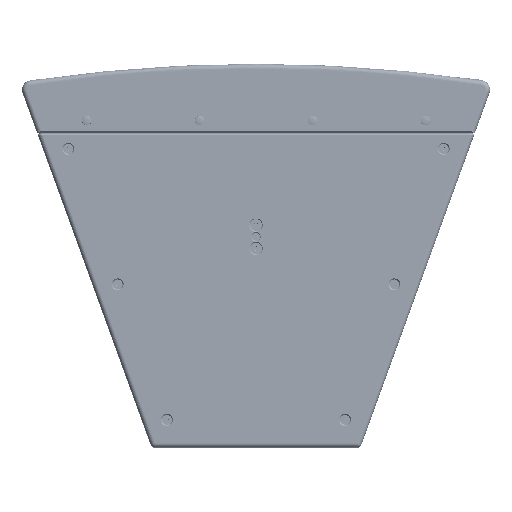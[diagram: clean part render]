
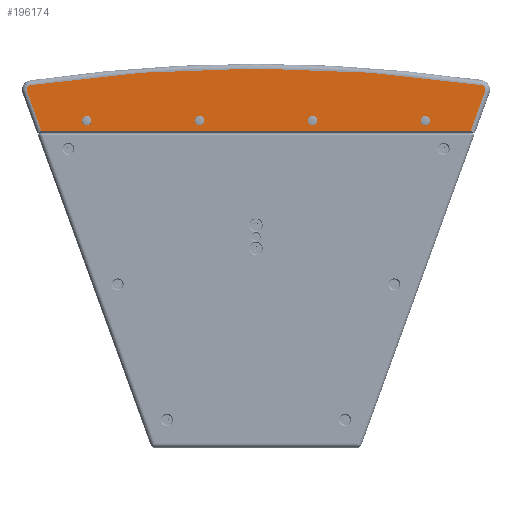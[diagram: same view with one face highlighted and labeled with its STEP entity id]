
A CAD part, left-side view. The second image highlights one B-rep face of the part: STEP entity #196174.
In plain terms, the highlighted planar face has unit normal (-1, 0, 0) as drawn and (1, 0, 0) by its records, which use the part's own axes.
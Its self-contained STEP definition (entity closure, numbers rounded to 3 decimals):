
#1952 = EDGE_LOOP ( 'NONE', ( #197231, #38778, #112027, #60653, #119924, #56001 ) ) ;
#2805 = CARTESIAN_POINT ( 'NONE',  ( 15., 0., -3109.089 ) ) ;
#3998 = VERTEX_POINT ( 'NONE', #49160 ) ;
#4334 = CARTESIAN_POINT ( 'NONE',  ( 15., 443.325, -120.7 ) ) ;
#4346 = VERTEX_POINT ( 'NONE', #114648 ) ;
#5229 = ORIENTED_EDGE ( 'NONE', *, *, #119835, .F. ) ;
#5966 = CARTESIAN_POINT ( 'NONE',  ( 15., 455.115, -36.609 ) ) ;
#6356 = LINE ( 'NONE', #4334, #35678 ) ;
#10518 = DIRECTION ( 'NONE',  ( 0., 0., -1. ) ) ;
#13270 = CARTESIAN_POINT ( 'NONE',  ( 15., 342.9, -99.3 ) ) ;
#13702 = DIRECTION ( 'NONE',  ( 1., 0., 0. ) ) ;
#14989 = AXIS2_PLACEMENT_3D ( 'NONE', #130112, #23381, #147386 ) ;
#19442 = EDGE_CURVE ( 'NONE', #93082, #78952, #97849, .T. ) ;
#21773 = CARTESIAN_POINT ( 'NONE',  ( 15., -342.9, -99.3 ) ) ;
#23381 = DIRECTION ( 'NONE',  ( 1., 0., 0. ) ) ;
#25911 = CARTESIAN_POINT ( 'NONE',  ( 15., 342.9, -107.3 ) ) ;
#28964 = CARTESIAN_POINT ( 'NONE',  ( 15., -342.9, -99.3 ) ) ;
#29507 = DIRECTION ( 'NONE',  ( 1., 0., 0. ) ) ;
#29749 = LINE ( 'NONE', #32757, #135276 ) ;
#30502 = CARTESIAN_POINT ( 'NONE',  ( 15., -114.3, -99.3 ) ) ;
#30804 = DIRECTION ( 'NONE',  ( 1., 0., 0. ) ) ;
#31879 = VERTEX_POINT ( 'NONE', #191226 ) ;
#32757 = CARTESIAN_POINT ( 'NONE',  ( 15., -435.83, -117.442 ) ) ;
#34318 = DIRECTION ( 'NONE',  ( 1., 0., 0. ) ) ;
#35678 = VECTOR ( 'NONE', #68346, 1000. ) ;
#36284 = DIRECTION ( 'NONE',  ( 1., 0., 0. ) ) ;
#38778 = ORIENTED_EDGE ( 'NONE', *, *, #161372, .T. ) ;
#44226 = AXIS2_PLACEMENT_3D ( 'NONE', #177595, #36284, #190790 ) ;
#45147 = CARTESIAN_POINT ( 'NONE',  ( 15., 464.065, -39.867 ) ) ;
#47762 = EDGE_CURVE ( 'NONE', #62454, #77388, #6356, .T. ) ;
#49160 = CARTESIAN_POINT ( 'NONE',  ( 15., -114.3, -107.3 ) ) ;
#53236 = EDGE_CURVE ( 'NONE', #187660, #31879, #111534, .T. ) ;
#55788 = DIRECTION ( 'NONE',  ( 1., 0., 0. ) ) ;
#56001 = ORIENTED_EDGE ( 'NONE', *, *, #142844, .T. ) ;
#57973 = CARTESIAN_POINT ( 'NONE',  ( 15., 114.3, -107.3 ) ) ;
#58538 = EDGE_LOOP ( 'NONE', ( #5229, #129205 ) ) ;
#60653 = ORIENTED_EDGE ( 'NONE', *, *, #72660, .T. ) ;
#62454 = VERTEX_POINT ( 'NONE', #115749 ) ;
#63465 = AXIS2_PLACEMENT_3D ( 'NONE', #30502, #29507, #91484 ) ;
#66592 = CARTESIAN_POINT ( 'NONE',  ( 15., -342.9, -107.3 ) ) ;
#67802 = VERTEX_POINT ( 'NONE', #66592 ) ;
#67952 = PLANE ( 'NONE',  #82866 ) ;
#68346 = DIRECTION ( 'NONE',  ( 0., 1., 0. ) ) ;
#68713 = AXIS2_PLACEMENT_3D ( 'NONE', #96808, #175093, #127295 ) ;
#70204 = CIRCLE ( 'NONE', #44226, 8. ) ;
#72048 = DIRECTION ( 'NONE',  ( 1., 0., 0. ) ) ;
#72660 = EDGE_CURVE ( 'NONE', #4346, #93082, #118683, .T. ) ;
#74027 = DIRECTION ( 'NONE',  ( 0., 0., -1. ) ) ;
#75190 = CARTESIAN_POINT ( 'NONE',  ( 15., 342.9, -91.3 ) ) ;
#75258 = DIRECTION ( 'NONE',  ( 0., 0., -1. ) ) ;
#76790 = CIRCLE ( 'NONE', #14989, 9.525 ) ;
#77388 = VERTEX_POINT ( 'NONE', #114200 ) ;
#78952 = VERTEX_POINT ( 'NONE', #81095 ) ;
#81095 = CARTESIAN_POINT ( 'NONE',  ( 15., -464.065, -39.867 ) ) ;
#82115 = CIRCLE ( 'NONE', #134069, 8. ) ;
#82866 = AXIS2_PLACEMENT_3D ( 'NONE', #5966, #176746, #159451 ) ;
#83180 = FACE_BOUND ( 'NONE', #142578, .T. ) ;
#84454 = VERTEX_POINT ( 'NONE', #25911 ) ;
#86750 = VERTEX_POINT ( 'NONE', #75190 ) ;
#89514 = AXIS2_PLACEMENT_3D ( 'NONE', #2805, #34318, #157331 ) ;
#89857 = VECTOR ( 'NONE', #169158, 1000. ) ;
#91484 = DIRECTION ( 'NONE',  ( 0., 0., -1. ) ) ;
#91707 = ORIENTED_EDGE ( 'NONE', *, *, #53236, .F. ) ;
#93082 = VERTEX_POINT ( 'NONE', #173603 ) ;
#94989 = ORIENTED_EDGE ( 'NONE', *, *, #108465, .F. ) ;
#95141 = VERTEX_POINT ( 'NONE', #156379 ) ;
#96808 = CARTESIAN_POINT ( 'NONE',  ( 15., -455.115, -36.609 ) ) ;
#97043 = VERTEX_POINT ( 'NONE', #156145 ) ;
#97451 = FACE_OUTER_BOUND ( 'NONE', #1952, .T. ) ;
#97849 = CIRCLE ( 'NONE', #68713, 9.525 ) ;
#98159 = CIRCLE ( 'NONE', #176121, 8. ) ;
#99460 = FACE_BOUND ( 'NONE', #101224, .T. ) ;
#100508 = CARTESIAN_POINT ( 'NONE',  ( 15., 114.3, -99.3 ) ) ;
#101224 = EDGE_LOOP ( 'NONE', ( #91707, #94989 ) ) ;
#105151 = LINE ( 'NONE', #45147, #89857 ) ;
#108465 = EDGE_CURVE ( 'NONE', #31879, #187660, #70204, .T. ) ;
#108508 = AXIS2_PLACEMENT_3D ( 'NONE', #151309, #72048, #74027 ) ;
#111157 = AXIS2_PLACEMENT_3D ( 'NONE', #189344, #30804, #139545 ) ;
#111534 = CIRCLE ( 'NONE', #131116, 8. ) ;
#112027 = ORIENTED_EDGE ( 'NONE', *, *, #160787, .T. ) ;
#114200 = CARTESIAN_POINT ( 'NONE',  ( 15., 434.645, -120.7 ) ) ;
#114648 = CARTESIAN_POINT ( 'NONE',  ( 15., 456.511, -27.187 ) ) ;
#115749 = CARTESIAN_POINT ( 'NONE',  ( 15., -434.645, -120.7 ) ) ;
#118683 = CIRCLE ( 'NONE', #89514, 3115.529 ) ;
#119835 = EDGE_CURVE ( 'NONE', #67802, #95141, #82115, .T. ) ;
#119924 = ORIENTED_EDGE ( 'NONE', *, *, #19442, .T. ) ;
#127295 = DIRECTION ( 'NONE',  ( 0., 0., -1. ) ) ;
#127937 = FACE_BOUND ( 'NONE', #58538, .T. ) ;
#129205 = ORIENTED_EDGE ( 'NONE', *, *, #188566, .F. ) ;
#130112 = CARTESIAN_POINT ( 'NONE',  ( 15., 455.115, -36.609 ) ) ;
#131116 = AXIS2_PLACEMENT_3D ( 'NONE', #100508, #55788, #180781 ) ;
#133681 = ORIENTED_EDGE ( 'NONE', *, *, #168721, .F. ) ;
#134069 = AXIS2_PLACEMENT_3D ( 'NONE', #21773, #192536, #10518 ) ;
#135276 = VECTOR ( 'NONE', #140502, 1000. ) ;
#138260 = DIRECTION ( 'NONE',  ( 1., 0., 0. ) ) ;
#139545 = DIRECTION ( 'NONE',  ( 0., 0., -1. ) ) ;
#140502 = DIRECTION ( 'NONE',  ( 0., 0.342, -0.94 ) ) ;
#141091 = EDGE_CURVE ( 'NONE', #3998, #174602, #161002, .T. ) ;
#142578 = EDGE_LOOP ( 'NONE', ( #176442, #151543 ) ) ;
#142844 = EDGE_CURVE ( 'NONE', #78952, #62454, #29749, .T. ) ;
#147386 = DIRECTION ( 'NONE',  ( 0., 0., -1. ) ) ;
#151309 = CARTESIAN_POINT ( 'NONE',  ( 15., 342.9, -99.3 ) ) ;
#151543 = ORIENTED_EDGE ( 'NONE', *, *, #153966, .F. ) ;
#153957 = DIRECTION ( 'NONE',  ( 0., 0., -1. ) ) ;
#153966 = EDGE_CURVE ( 'NONE', #174602, #3998, #169659, .T. ) ;
#156145 = CARTESIAN_POINT ( 'NONE',  ( 15., 464.065, -39.867 ) ) ;
#156379 = CARTESIAN_POINT ( 'NONE',  ( 15., -342.9, -91.3 ) ) ;
#157331 = DIRECTION ( 'NONE',  ( 0., 0., -1. ) ) ;
#159213 = AXIS2_PLACEMENT_3D ( 'NONE', #13270, #138260, #75258 ) ;
#159451 = DIRECTION ( 'NONE',  ( 0., 0., -1. ) ) ;
#160787 = EDGE_CURVE ( 'NONE', #97043, #4346, #76790, .T. ) ;
#161002 = CIRCLE ( 'NONE', #63465, 8. ) ;
#161372 = EDGE_CURVE ( 'NONE', #77388, #97043, #105151, .T. ) ;
#168721 = EDGE_CURVE ( 'NONE', #84454, #86750, #194911, .T. ) ;
#169158 = DIRECTION ( 'NONE',  ( 0., 0.342, 0.94 ) ) ;
#169659 = CIRCLE ( 'NONE', #111157, 8. ) ;
#171272 = EDGE_LOOP ( 'NONE', ( #133681, #193902 ) ) ;
#173603 = CARTESIAN_POINT ( 'NONE',  ( 15., -456.511, -27.187 ) ) ;
#174602 = VERTEX_POINT ( 'NONE', #186376 ) ;
#174711 = FACE_BOUND ( 'NONE', #171272, .T. ) ;
#175093 = DIRECTION ( 'NONE',  ( 1., 0., 0. ) ) ;
#176041 = EDGE_CURVE ( 'NONE', #86750, #84454, #196209, .T. ) ;
#176121 = AXIS2_PLACEMENT_3D ( 'NONE', #28964, #13702, #153957 ) ;
#176442 = ORIENTED_EDGE ( 'NONE', *, *, #141091, .F. ) ;
#176746 = DIRECTION ( 'NONE',  ( 1., 0., 0. ) ) ;
#177595 = CARTESIAN_POINT ( 'NONE',  ( 15., 114.3, -99.3 ) ) ;
#180781 = DIRECTION ( 'NONE',  ( 0., 0., -1. ) ) ;
#186376 = CARTESIAN_POINT ( 'NONE',  ( 15., -114.3, -91.3 ) ) ;
#187660 = VERTEX_POINT ( 'NONE', #57973 ) ;
#188566 = EDGE_CURVE ( 'NONE', #95141, #67802, #98159, .T. ) ;
#189344 = CARTESIAN_POINT ( 'NONE',  ( 15., -114.3, -99.3 ) ) ;
#190790 = DIRECTION ( 'NONE',  ( 0., 0., -1. ) ) ;
#191226 = CARTESIAN_POINT ( 'NONE',  ( 15., 114.3, -91.3 ) ) ;
#192536 = DIRECTION ( 'NONE',  ( 1., 0., 0. ) ) ;
#193902 = ORIENTED_EDGE ( 'NONE', *, *, #176041, .F. ) ;
#194911 = CIRCLE ( 'NONE', #159213, 8. ) ;
#196174 = ADVANCED_FACE ( 'NONE', ( #127937, #83180, #174711, #99460, #97451 ), #67952, .T. ) ;
#196209 = CIRCLE ( 'NONE', #108508, 8. ) ;
#197231 = ORIENTED_EDGE ( 'NONE', *, *, #47762, .T. ) ;
